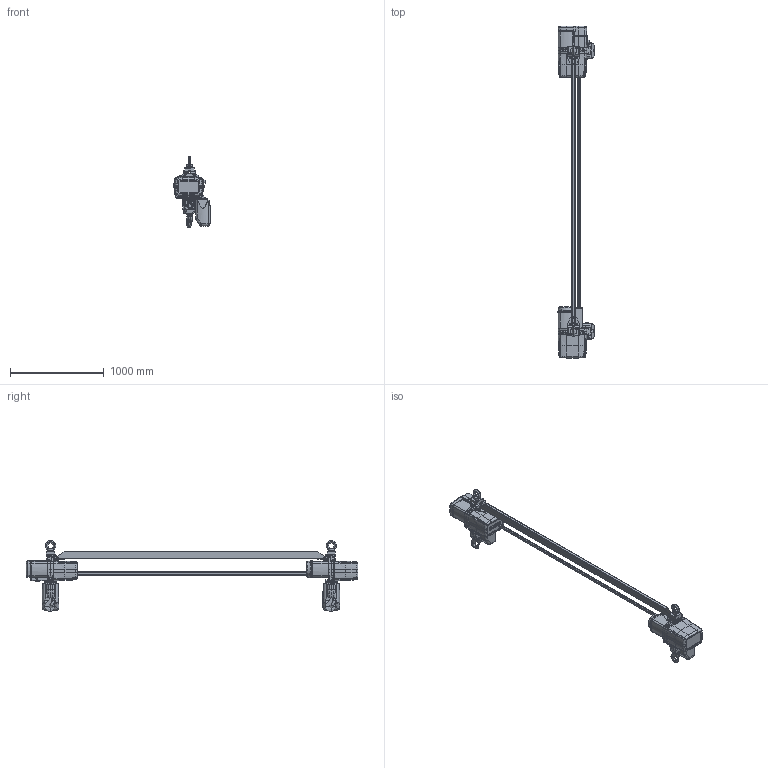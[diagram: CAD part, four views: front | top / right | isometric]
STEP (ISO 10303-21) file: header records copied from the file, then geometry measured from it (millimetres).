
FILE_DESCRIPTION(/* description */ (''),/* implementation_level */ '2;1');
FILE_NAME(/* name */ 'G:\Technik\3D-Dateien light_2015_10_02\Hebezeuge\Sonderausführungen\GP\9515.9206.L GPS1000,1; ,2.stp',/* time_stamp */ '2019-06-06T17:13:09+02:00',/* author */ ('gispen'),/* organization */ (''),/* preprocessor_version */ 'ST-DEVELOPER v17.2',/* originating_system */ 'Autodesk Inventor 2019',/* authorisation */ '');
FILE_SCHEMA (('AUTOMOTIVE_DESIGN { 1 0 10303 214 3 1 1 }'));
Products named in the file (1): 9515.9206.L
Bounding box: 385.76 x 3547.5 x 756.56 mm (x, y, z)
Volume: 78601040.3 mm3; surface area: 4646686.6 mm2
Topology: 13 solids, 23 shells, 3955 faces, 10001 edges, 6075 vertices
Faces by surface type: plane 1126, cylinder 1074, bspline 950, torus 447, cone 279, sphere 79
Full cylindrical faces by diameter (mm): 1.555 x5, 2.693 x5, 3.2 x9, 5.4 x5, 6 x8, 6.2 x4, 6.5 x6, 7.5 x4, 8 x6, 8.5 x16, 12 x10, 12.5 x4, 12.6 x2, 13 x2, 14 x2, 16.5 x8, 16.6 x12, 18 x10, 20 x9, 22 x4, 25 x2, 28 x2, 29.5 x2, 30 x3, 34 x2, 52 x2, 65 x2
Entity records: 198774 total; most frequent: CARTESIAN_POINT 105371, ORIENTED_EDGE 19774, DIRECTION 17931, EDGE_CURVE 9887, AXIS2_PLACEMENT_3D 7159, VERTEX_POINT 6073, EDGE_LOOP 4162, FACE_OUTER_BOUND 3953
